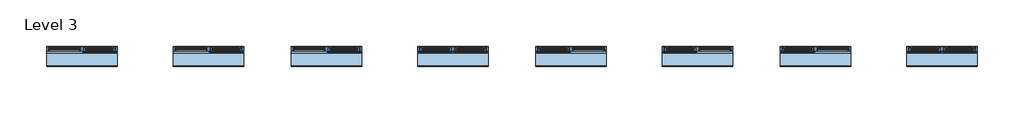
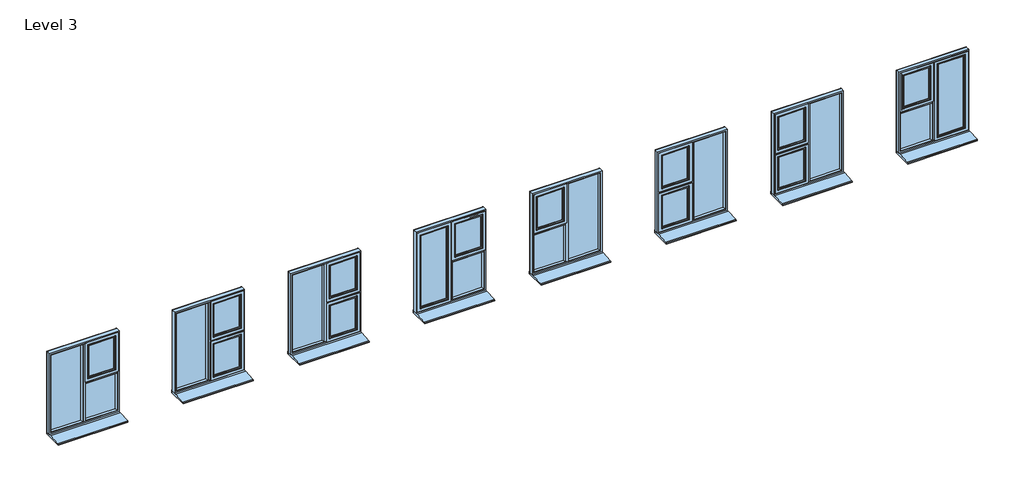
# One storey: 8 windows.
"""IFC4 building model written with IfcOpenShell, lengths in millimetres."""

from ifc_helpers import new_model, si_unit, origin, place, context, project, spatial, transform, mapped, element, save
from components import standard_2_d4f8b310, standard_2_c3361aaf, standard_2_5219ce2f, standard_2_606d7e47, standard_2_c4312e2e, standard_2_c7c9eed1

model = new_model("IFC4")

# Units and contexts
model_context = context("Model", 3, world=origin())
ifc_project = project(units=[si_unit("LENGTHUNIT", "METRE", prefix="MILLI")], contexts=[model_context])

# Site, building, storey
site = spatial("IfcSite", under=ifc_project)
building = spatial("IfcBuilding", under=site)
storey = spatial("IfcBuildingStorey", under=building, Name="Level 3", Elevation=6000.0)

# Windows
placement = place(None, origin())
standard_2_shape = standard_2_d4f8b310(model_context)
element("IfcWindow", 1, ObjectType="SMARTS_AlithermHeritage : Standard 2", at=placement, inside=storey, context=model_context, shape_type="MappedRepresentation", body=[
    mapped(standard_2_shape, transform((-165523.3801149, 24355.9063079, 5668.8184812), x_axis=(-1.0, 0.0, 0.0), y_axis=(0.0, -1.0, 0.0), z_axis=(0.0, 0.0, 1.0))),
])
standard_2_2_shape = standard_2_c3361aaf(model_context)
element("IfcWindow", 2, ObjectType="SMARTS_AlithermHeritage : Standard 2", at=placement, inside=storey, context=model_context, shape_type="MappedRepresentation", body=[
    mapped(standard_2_2_shape, transform((-164123.3801149, 24355.9063079, 5668.8184812), x_axis=(-1.0, 0.0, 0.0), y_axis=(0.0, -1.0, 0.0), z_axis=(0.0, 0.0, 1.0))),
])
element("IfcWindow", 3, ObjectType="SMARTS_AlithermHeritage : Standard 2", at=placement, inside=storey, context=model_context, shape_type="MappedRepresentation", body=[
    mapped(standard_2_2_shape, transform((-162823.3801149, 24355.9063079, 5668.8184812), x_axis=(-1.0, 0.0, 0.0), y_axis=(0.0, -1.0, 0.0), z_axis=(0.0, 0.0, 1.0))),
])
standard_2_3_shape = standard_2_5219ce2f(model_context)
element("IfcWindow", 4, ObjectType="SMARTS_AlithermHeritage : Standard 2", at=placement, inside=storey, context=model_context, shape_type="MappedRepresentation", body=[
    mapped(standard_2_3_shape, transform((-161423.3801149, 24355.9063079, 5668.8184812), x_axis=(-1.0, 0.0, 0.0), y_axis=(0.0, -1.0, 0.0), z_axis=(0.0, 0.0, 1.0))),
])
standard_2_4_shape = standard_2_606d7e47(model_context)
element("IfcWindow", 5, ObjectType="SMARTS_AlithermHeritage : Standard 2", at=placement, inside=storey, context=model_context, shape_type="MappedRepresentation", body=[
    mapped(standard_2_4_shape, transform((-170923.3801149, 24355.9063079, 5668.8184812), x_axis=(-1.0, 0.0, 0.0), y_axis=(0.0, -1.0, 0.0), z_axis=(0.0, 0.0, 1.0))),
])
standard_2_5_shape = standard_2_c4312e2e(model_context)
element("IfcWindow", 6, ObjectType="SMARTS_AlithermHeritage : Standard 2", at=placement, inside=storey, context=model_context, shape_type="MappedRepresentation", body=[
    mapped(standard_2_5_shape, transform((-169523.3801149, 24355.9063079, 5668.8184812), x_axis=(-1.0, 0.0, 0.0), y_axis=(0.0, -1.0, 0.0), z_axis=(0.0, 0.0, 1.0))),
])
element("IfcWindow", 7, ObjectType="SMARTS_AlithermHeritage : Standard 2", at=placement, inside=storey, context=model_context, shape_type="MappedRepresentation", body=[
    mapped(standard_2_5_shape, transform((-168223.3801149, 24355.9063079, 5668.8184812), x_axis=(-1.0, 0.0, 0.0), y_axis=(0.0, -1.0, 0.0), z_axis=(0.0, 0.0, 1.0))),
])
standard_2_6_shape = standard_2_c7c9eed1(model_context)
element("IfcWindow", 8, ObjectType="SMARTS_AlithermHeritage : Standard 2", at=placement, inside=storey, context=model_context, shape_type="MappedRepresentation", body=[
    mapped(standard_2_6_shape, transform((-166823.3801149, 24355.9063079, 5668.8184812), x_axis=(-1.0, 0.0, 0.0), y_axis=(0.0, -1.0, 0.0), z_axis=(0.0, 0.0, 1.0))),
])

save(model, "model.ifc")
